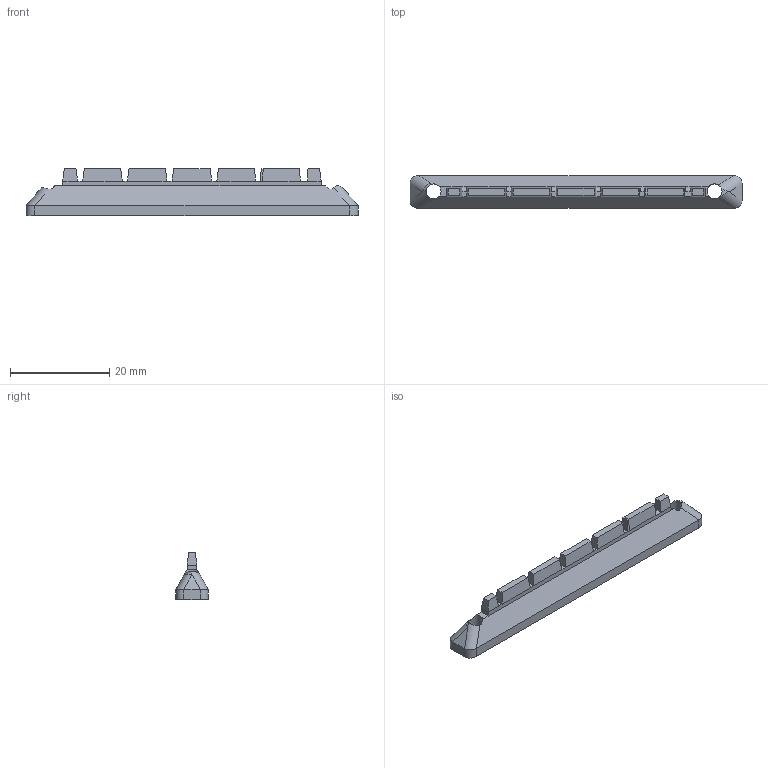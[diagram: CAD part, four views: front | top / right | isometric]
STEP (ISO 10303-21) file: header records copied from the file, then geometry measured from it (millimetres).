
FILE_DESCRIPTION(('STEP AP203'), '1');
FILE_NAME('ïîðîæåê 9ìì', '', ('UNSPECIFIED'), ('UNSPECIFIED'), 'ASCON STEP Converter 1.3', 'ASCON Math Kernel', '');
FILE_SCHEMA(('CONFIG_CONTROL_DESIGN'));
Length unit declared in the file: millimetre
Bounding box: 66.78 x 6.54 x 9.5 mm (x, y, z)
Volume: 2145.5 mm3; surface area: 1877.9 mm2
Topology: 1 solids, 1 shells, 109 faces, 258 edges, 149 vertices
Faces by surface type: plane 90, cylinder 14, bspline 5
Full cylindrical faces by diameter (mm): 3 x2
Entity records: 4218 total; most frequent: CARTESIAN_POINT 903, ORIENTED_EDGE 512, DIRECTION 459, EDGE_CURVE 256, LINE 211, VECTOR 211, VERTEX_POINT 149, AXIS2_PLACEMENT_3D 124
